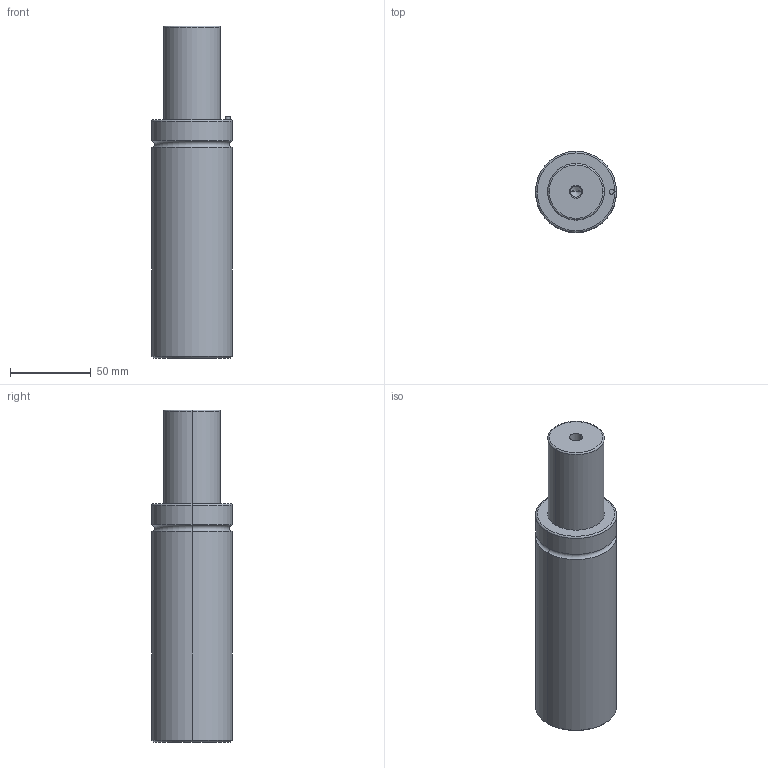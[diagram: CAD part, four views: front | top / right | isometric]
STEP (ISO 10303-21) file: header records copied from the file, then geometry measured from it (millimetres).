
FILE_DESCRIPTION(/* description */ (''),/* implementation_level */ '2;1');
FILE_NAME(/* name */ '3d_gsm50-56_03912_r00.stp',/* time_stamp */ '2011-01-10T14:15:15+09:00',/* author */ ('MISUMI'),/* organization */ (''),/* preprocessor_version */ 'ST-DEVELOPER v11',/* originating_system */ 'UGS - NX 5.0',/* authorisation */ '');
FILE_SCHEMA (('CONFIG_CONTROL_DESIGN'));
Length unit declared in the file: millimetre
Products named in the file (1): 3d_gsm50-56_03912_r00
Bounding box: 50 x 50 x 205 mm (x, y, z)
Volume: 340490.6 mm3; surface area: 34956.6 mm2
Topology: 1 solids, 1 shells, 48 faces, 102 edges, 58 vertices
Faces by surface type: cylinder 24, cone 10, plane 8, torus 6
Entity records: 1332 total; most frequent: DIRECTION 252, CARTESIAN_POINT 201, ORIENTED_EDGE 188, AXIS2_PLACEMENT_3D 109, EDGE_CURVE 94, CIRCLE 60, EDGE_LOOP 58, VERTEX_POINT 58
